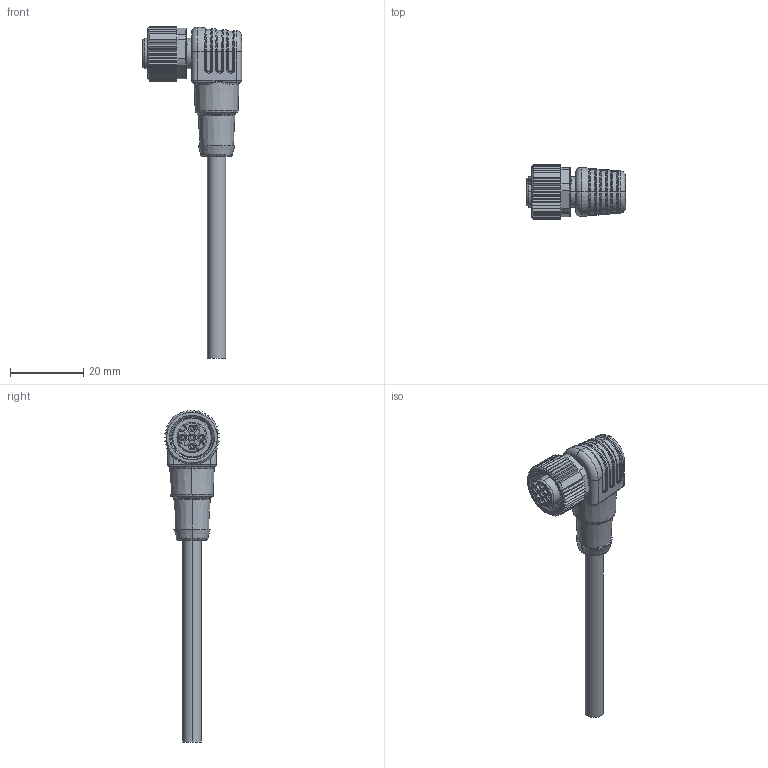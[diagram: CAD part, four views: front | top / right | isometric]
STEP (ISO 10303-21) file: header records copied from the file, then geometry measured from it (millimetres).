
FILE_DESCRIPTION (( 'STEP AP203' ), '1' );
FILE_NAME ('64S281-XXX.STEP', '2023-09-16T07:47:16', ( 'ADMIN' ), ( '' ), 'SwSTEP 2.0', 'SolidWorks 2016', '' );
FILE_SCHEMA (( 'CONFIG_CONTROL_DESIGN' ));
Length unit declared in the file: millimetre
Products named in the file (1): 64S281-XXX
Bounding box: 27 x 15 x 90.45 mm (x, y, z)
Volume: 6249.3 mm3; surface area: 4728.2 mm2
Topology: 1 solids, 1 shells, 1091 faces, 3118 edges, 2044 vertices
Faces by surface type: plane 386, cylinder 363, torus 147, bspline 123, cone 72
Entity records: 51115 total; most frequent: CARTESIAN_POINT 25931, ORIENTED_EDGE 6234, DIRECTION 3819, EDGE_CURVE 3117, VERTEX_POINT 2044, B_SPLINE_CURVE_WITH_KNOTS 1676, AXIS2_PLACEMENT_3D 1431, EDGE_LOOP 1123
